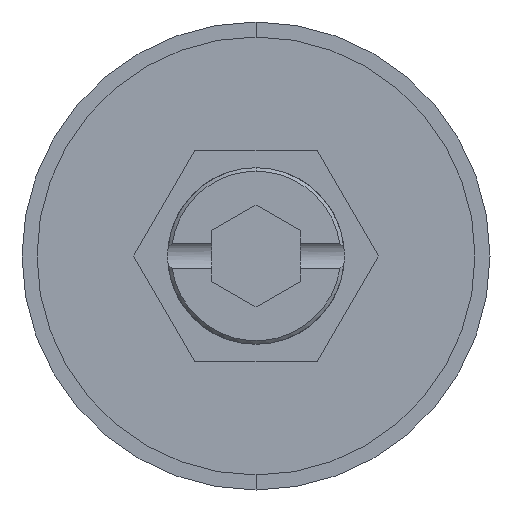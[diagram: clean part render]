
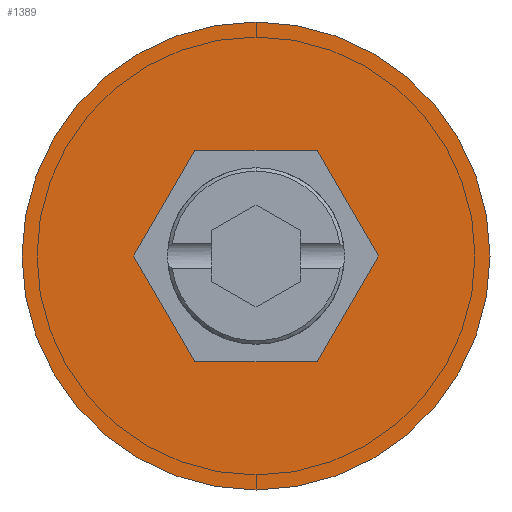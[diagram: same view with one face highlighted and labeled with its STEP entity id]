
A CAD part, front view. The second image highlights one B-rep face of the part: STEP entity #1389.
In plain terms, the highlighted planar face has unit normal (0, -1, 0).
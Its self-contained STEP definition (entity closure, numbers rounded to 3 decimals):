
#9 = VERTEX_POINT ( 'NONE', #393 ) ;
#47 = VECTOR ( 'NONE', #608, 1000. ) ;
#97 = EDGE_LOOP ( 'NONE', ( #1045, #155 ) ) ;
#101 = CARTESIAN_POINT ( 'NONE',  ( 0., 0., 0. ) ) ;
#155 = ORIENTED_EDGE ( 'NONE', *, *, #970, .T. ) ;
#172 = ORIENTED_EDGE ( 'NONE', *, *, #423, .F. ) ;
#201 = CARTESIAN_POINT ( 'NONE',  ( 0., 0., -13.25 ) ) ;
#233 = ORIENTED_EDGE ( 'NONE', *, *, #1666, .F. ) ;
#313 = LINE ( 'NONE', #1849, #782 ) ;
#326 = LINE ( 'NONE', #1627, #1176 ) ;
#393 = CARTESIAN_POINT ( 'NONE',  ( 6.928, 0., 0. ) ) ;
#423 = EDGE_CURVE ( 'NONE', #9, #1777, #326, .T. ) ;
#442 = EDGE_CURVE ( 'NONE', #702, #572, #789, .T. ) ;
#447 = CARTESIAN_POINT ( 'NONE',  ( -6.928, 0., 0. ) ) ;
#452 = VERTEX_POINT ( 'NONE', #201 ) ;
#550 = FACE_OUTER_BOUND ( 'NONE', #97, .T. ) ;
#568 = VERTEX_POINT ( 'NONE', #1555 ) ;
#572 = VERTEX_POINT ( 'NONE', #447 ) ;
#606 = FACE_BOUND ( 'NONE', #2138, .T. ) ;
#608 = DIRECTION ( 'NONE',  ( 1., 0., 0. ) ) ;
#631 = CARTESIAN_POINT ( 'NONE',  ( 0., 0., 0. ) ) ;
#636 = ORIENTED_EDGE ( 'NONE', *, *, #1825, .F. ) ;
#638 = EDGE_CURVE ( 'NONE', #452, #666, #1470, .T. ) ;
#640 = DIRECTION ( 'NONE',  ( 0., -1., 0. ) ) ;
#651 = VECTOR ( 'NONE', #968, 1000. ) ;
#658 = DIRECTION ( 'NONE',  ( 0., 0., -1. ) ) ;
#666 = VERTEX_POINT ( 'NONE', #866 ) ;
#702 = VERTEX_POINT ( 'NONE', #2018 ) ;
#741 = DIRECTION ( 'NONE',  ( 0., 0., -1. ) ) ;
#782 = VECTOR ( 'NONE', #992, 1000. ) ;
#789 = LINE ( 'NONE', #898, #1582 ) ;
#806 = PLANE ( 'NONE',  #1553 ) ;
#815 = CARTESIAN_POINT ( 'NONE',  ( 3.464, 0., -6. ) ) ;
#866 = CARTESIAN_POINT ( 'NONE',  ( 0., 0., 13.25 ) ) ;
#898 = CARTESIAN_POINT ( 'NONE',  ( -3.464, 0., 6. ) ) ;
#901 = DIRECTION ( 'NONE',  ( 0., -1., 0. ) ) ;
#906 = AXIS2_PLACEMENT_3D ( 'NONE', #1200, #901, #741 ) ;
#939 = AXIS2_PLACEMENT_3D ( 'NONE', #631, #640, #658 ) ;
#968 = DIRECTION ( 'NONE',  ( 0.5, 0., -0.866 ) ) ;
#970 = EDGE_CURVE ( 'NONE', #666, #452, #1432, .T. ) ;
#976 = DIRECTION ( 'NONE',  ( 0., -1., 0. ) ) ;
#992 = DIRECTION ( 'NONE',  ( -1., 0., 0. ) ) ;
#1045 = ORIENTED_EDGE ( 'NONE', *, *, #638, .T. ) ;
#1135 = DIRECTION ( 'NONE',  ( 0., 0., -1. ) ) ;
#1176 = VECTOR ( 'NONE', #1395, 1000. ) ;
#1200 = CARTESIAN_POINT ( 'NONE',  ( 0., 0., 0. ) ) ;
#1227 = VECTOR ( 'NONE', #2011, 1000. ) ;
#1313 = VERTEX_POINT ( 'NONE', #1974 ) ;
#1389 = ADVANCED_FACE ( 'NONE', ( #606, #550 ), #806, .T. ) ;
#1390 = EDGE_CURVE ( 'NONE', #572, #568, #1865, .T. ) ;
#1395 = DIRECTION ( 'NONE',  ( -0.5, 0., 0.866 ) ) ;
#1432 = CIRCLE ( 'NONE', #906, 13.25 ) ;
#1470 = CIRCLE ( 'NONE', #939, 13.25 ) ;
#1546 = ORIENTED_EDGE ( 'NONE', *, *, #442, .F. ) ;
#1553 = AXIS2_PLACEMENT_3D ( 'NONE', #101, #976, #1135 ) ;
#1555 = CARTESIAN_POINT ( 'NONE',  ( -3.464, 0., -6. ) ) ;
#1582 = VECTOR ( 'NONE', #2241, 1000. ) ;
#1627 = CARTESIAN_POINT ( 'NONE',  ( 6.928, 0., 0. ) ) ;
#1634 = CARTESIAN_POINT ( 'NONE',  ( -3.464, 0., -6. ) ) ;
#1666 = EDGE_CURVE ( 'NONE', #568, #1313, #1836, .T. ) ;
#1777 = VERTEX_POINT ( 'NONE', #1844 ) ;
#1807 = EDGE_CURVE ( 'NONE', #1313, #9, #2197, .T. ) ;
#1825 = EDGE_CURVE ( 'NONE', #1777, #702, #313, .T. ) ;
#1836 = LINE ( 'NONE', #1634, #47 ) ;
#1844 = CARTESIAN_POINT ( 'NONE',  ( 3.464, 0., 6. ) ) ;
#1849 = CARTESIAN_POINT ( 'NONE',  ( 3.464, 0., 6. ) ) ;
#1865 = LINE ( 'NONE', #2173, #651 ) ;
#1964 = ORIENTED_EDGE ( 'NONE', *, *, #1807, .F. ) ;
#1974 = CARTESIAN_POINT ( 'NONE',  ( 3.464, 0., -6. ) ) ;
#2007 = ORIENTED_EDGE ( 'NONE', *, *, #1390, .F. ) ;
#2011 = DIRECTION ( 'NONE',  ( 0.5, 0., 0.866 ) ) ;
#2018 = CARTESIAN_POINT ( 'NONE',  ( -3.464, 0., 6. ) ) ;
#2138 = EDGE_LOOP ( 'NONE', ( #233, #2007, #1546, #636, #172, #1964 ) ) ;
#2173 = CARTESIAN_POINT ( 'NONE',  ( -6.928, 0., 0. ) ) ;
#2197 = LINE ( 'NONE', #815, #1227 ) ;
#2241 = DIRECTION ( 'NONE',  ( -0.5, 0., -0.866 ) ) ;
